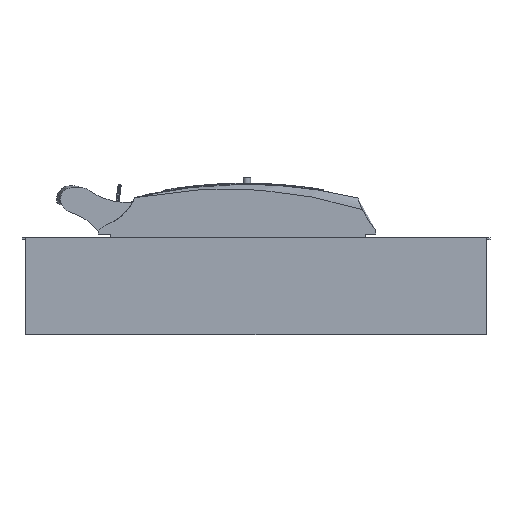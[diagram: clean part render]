
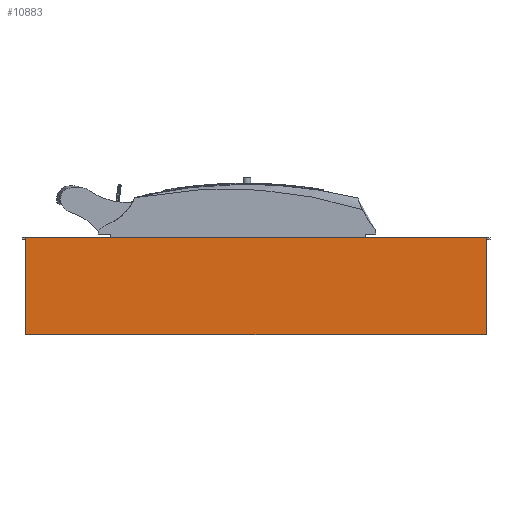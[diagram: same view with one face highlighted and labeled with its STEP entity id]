
A CAD part, front view. The second image highlights one B-rep face of the part: STEP entity #10883.
In plain terms, the highlighted planar face has unit normal (0, -1, 0).
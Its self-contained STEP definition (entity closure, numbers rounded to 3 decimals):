
#8788=FACE_OUTER_BOUND('',#12455,.T.);
#10029=PLANE('',#32275);
#10883=ADVANCED_FACE('',(#8788),#10029,.F.);
#12455=EDGE_LOOP('',(#16856,#16857,#16858,#16859));
#16856=ORIENTED_EDGE('',*,*,#26183,.T.);
#16857=ORIENTED_EDGE('',*,*,#25988,.F.);
#16858=ORIENTED_EDGE('',*,*,#25882,.F.);
#16859=ORIENTED_EDGE('',*,*,#25951,.T.);
#23556=VERTEX_POINT('',#42732);
#23567=VERTEX_POINT('',#42753);
#23630=VERTEX_POINT('',#42901);
#23662=VERTEX_POINT('',#42972);
#25882=EDGE_CURVE('',#23567,#23556,#28924,.T.);
#25951=EDGE_CURVE('',#23567,#23630,#28993,.T.);
#25988=EDGE_CURVE('',#23556,#23662,#29020,.T.);
#26183=EDGE_CURVE('',#23630,#23662,#29189,.T.);
#28924=LINE('',#42754,#30345);
#28993=LINE('',#42902,#30414);
#29020=LINE('',#42971,#30441);
#29189=LINE('',#43352,#30610);
#30345=VECTOR('',#35124,1.);
#30414=VECTOR('',#35225,1.);
#30441=VECTOR('',#35274,1.);
#30610=VECTOR('',#35555,1.);
#32275=AXIS2_PLACEMENT_3D('',#43353,#35556,#35557);
#35124=DIRECTION('',(1.,0.,0.));
#35225=DIRECTION('',(0.,0.,-1.));
#35274=DIRECTION('',(0.,0.,-1.));
#35555=DIRECTION('',(1.,0.,0.));
#35556=DIRECTION('',(0.,1.,0.));
#35557=DIRECTION('',(0.,0.,-1.));
#42732=CARTESIAN_POINT('',(210.828,-104.,196.103));
#42753=CARTESIAN_POINT('',(-169.172,-104.,196.103));
#42754=CARTESIAN_POINT('',(150.828,-104.,196.103));
#42901=CARTESIAN_POINT('',(-169.172,-104.,116.103));
#42902=CARTESIAN_POINT('',(-169.172,-104.,196.103));
#42971=CARTESIAN_POINT('',(210.828,-104.,196.103));
#42972=CARTESIAN_POINT('',(210.828,-104.,116.103));
#43352=CARTESIAN_POINT('',(150.828,-104.,116.103));
#43353=CARTESIAN_POINT('',(150.828,-104.,196.103));
